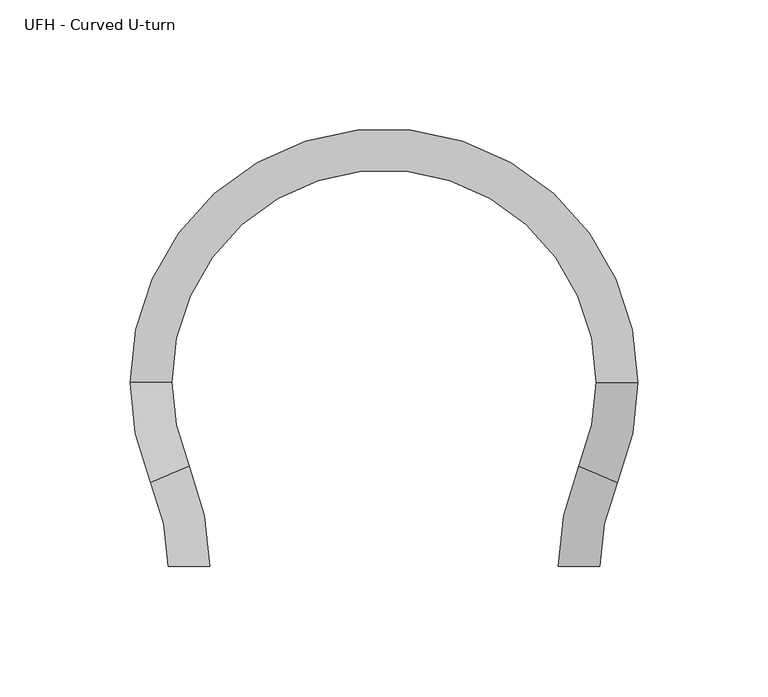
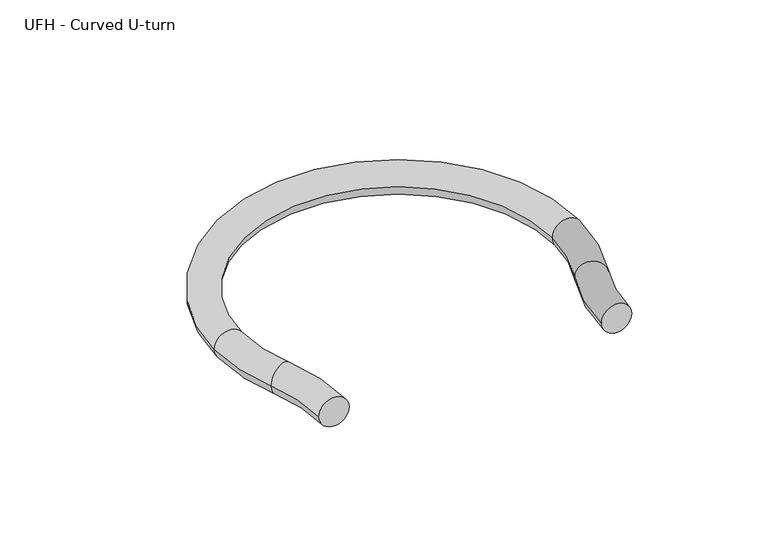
"""IFC4 building model written with IfcOpenShell, lengths in millimetres: pipe fitting geometry, UFH - Curved U-turn : Superpipe 2+ UFH Curved U-turn  - VA150."""

import ifcopenshell
import ifcopenshell.guid

model = None  # the IFC model being written
_history = None  # IfcOwnerHistory: only IFC2X3 demands one
_inside = {}  # id of a spatial element -> (the spatial element, [elements in it])
_under = {}  # id of a project, library or spatial element -> (it, [spatial elements below it])
_declared = {}  # id of a project -> (the project, [libraries it declares])
_typed = {}  # id of a type object -> (the type object, [elements of that type])
_made_of = {}  # id of a material, layer set ... -> (it, [elements and type objects made of it])


def new_model(schema):
    """Start an empty IFC model of exactly this schema.

    Asked for "IFC4X3", IfcOpenShell would pick the latest addendum, in which some entities
    have other attributes; the version numbers below select the first issue.
    IFC2X3 requires an IfcOwnerHistory on every rooted entity: one is made here for all.
    """
    global model, _history
    if schema == "IFC4X3":
        model = ifcopenshell.file(schema_version=(4, 3, 0, 0))
    else:
        model = ifcopenshell.file(schema=schema)
    _inside.clear()
    _under.clear()
    _declared.clear()
    _typed.clear()
    _made_of.clear()
    _history = None
    if model.schema == "IFC2X3":
        org = make("IfcOrganization", Name="unknown")
        user = make(
            "IfcPersonAndOrganization",
            ThePerson=make("IfcPerson", FamilyName="unknown"),
            TheOrganization=org,
        )
        app = make(
            "IfcApplication",
            ApplicationDeveloper=org,
            Version="unknown",
            ApplicationFullName="unknown",
            ApplicationIdentifier="unknown",
        )
        _history = make(
            "IfcOwnerHistory",
            OwningUser=user,
            OwningApplication=app,
            ChangeAction="ADDED",
            CreationDate=0,
        )
    return model


def make(cls, **values):
    """One entity of the class cls with the attributes given. An attribute that is None is left unset."""
    return model.create_entity(
        cls, **{name: value for name, value in values.items() if value is not None}
    )


def rooted(cls, **values):
    """An entity with a GlobalId (a new one), such as an element, a storey or a relation."""
    return make(cls, GlobalId=ifcopenshell.guid.new(), OwnerHistory=_history, **values)


def si_unit(unit_type, name, prefix=None):
    """IfcSIUnit, for example si_unit("LENGTHUNIT", "METRE", prefix="MILLI")."""
    return make("IfcSIUnit", UnitType=unit_type, Prefix=prefix, Name=name)


def assignment(units):
    """IfcUnitAssignment: the units of a project."""
    return None if units is None else make("IfcUnitAssignment", Units=units)


def point(xyz):
    """IfcCartesianPoint."""
    return None if xyz is None else make("IfcCartesianPoint", Coordinates=xyz)


def direction(xyz):
    """IfcDirection."""
    return None if xyz is None else make("IfcDirection", DirectionRatios=xyz)


def frame(location, z_axis=None, x_axis=None):
    """IfcAxis2Placement3D, a coordinate frame: its origin and axes. An axis left out is left unset."""
    return make(
        "IfcAxis2Placement3D",
        Location=point(location),
        Axis=direction(z_axis),
        RefDirection=direction(x_axis),
    )


def origin():
    """The frame at (0, 0, 0) with its axes left unset."""
    return frame((0.0, 0.0, 0.0))


def place(relative_to, where):
    """IfcLocalPlacement: puts the frame where relative to a parent placement (None: the world)."""
    return make(
        "IfcLocalPlacement", PlacementRelTo=relative_to, RelativePlacement=where
    )


def context(
    kind, dimensions, precision=None, world=None, true_north=None, identifier=None
):
    """IfcGeometricRepresentationContext, for example the 3D "Model" context."""
    return make(
        "IfcGeometricRepresentationContext",
        ContextIdentifier=identifier,
        ContextType=kind,
        CoordinateSpaceDimension=dimensions,
        Precision=precision,
        WorldCoordinateSystem=world,
        TrueNorth=true_north,
    )


def project(units=None, contexts=None):
    """IfcProject with its units and contexts."""
    return rooted(
        "IfcProject",
        Name="project",
        RepresentationContexts=contexts,
        UnitsInContext=assignment(units),
    )


def spatial(cls, under=None, at=None, **own):
    """A site, building, storey or space (cls), placed at a placement, below another one or the project."""
    s = rooted(cls, ObjectPlacement=at, **own)
    if under is not None:
        _under.setdefault(under.id(), (under, []))[1].append(s)
    return s


def circle_curve(where, radius):
    """IfcCircle in the frame where."""
    return make("IfcCircle", Position=where, Radius=radius)


def ellipse_curve(where, semi_axis1, semi_axis2):
    """IfcEllipse in the frame where."""
    return make(
        "IfcEllipse", Position=where, SemiAxis1=semi_axis1, SemiAxis2=semi_axis2
    )


def trimmed(basis, trim1, trim2, sense, master):
    """IfcTrimmedCurve: the piece of a basis curve between two trims."""
    return make(
        "IfcTrimmedCurve",
        BasisCurve=basis,
        Trim1=trim1,
        Trim2=trim2,
        SenseAgreement=sense,
        MasterRepresentation=master,
    )


def shape(context_of_items, identifier, shape_type, items):
    """IfcShapeRepresentation: the items that make up one representation, for example the "Body"."""
    return make(
        "IfcShapeRepresentation",
        ContextOfItems=context_of_items,
        RepresentationIdentifier=identifier,
        RepresentationType=shape_type,
        Items=items,
    )


def source(mapping_origin, context_of_items, identifier, shape_type, items):
    """IfcRepresentationMap: a shape defined once, which mapped items show again and again."""
    return make(
        "IfcRepresentationMap",
        MappingOrigin=mapping_origin,
        MappedRepresentation=shape(context_of_items, identifier, shape_type, items),
    )


def transform(
    local_origin,
    x_axis=None,
    y_axis=None,
    z_axis=None,
    scale=None,
    scale2=None,
    scale3=None,
    uniform=True,
):
    """IfcCartesianTransformationOperator3D, or its non-uniform kind. x_axis, y_axis, z_axis: its Axis1, 2, 3."""
    if uniform:
        return make(
            "IfcCartesianTransformationOperator3D",
            Axis1=direction(x_axis),
            Axis2=direction(y_axis),
            LocalOrigin=point(local_origin),
            Scale=scale,
            Axis3=direction(z_axis),
        )
    return make(
        "IfcCartesianTransformationOperator3DnonUniform",
        Axis1=direction(x_axis),
        Axis2=direction(y_axis),
        LocalOrigin=point(local_origin),
        Scale=scale,
        Axis3=direction(z_axis),
        Scale2=scale2,
        Scale3=scale3,
    )


def mapped(mapping_source, mapping_target):
    """IfcMappedItem: shows the shape of a source again, moved by a transform."""
    return make(
        "IfcMappedItem", MappingSource=mapping_source, MappingTarget=mapping_target
    )


def made_of(thing, what):
    """Note that an element or type object is made of a material, layer set ...; save() writes the relation."""
    if what is not None:
        _made_of.setdefault(what.id(), (what, []))[1].append(thing)
    return thing


def element(
    cls,
    number,
    at=None,
    inside=None,
    cuts=None,
    type_object=None,
    material=None,
    context=None,
    identifier="Body",
    shape_type=None,
    held_by="IfcProductDefinitionShape",
    body=None,
    shapes=None,
    **own,
):
    """One element of the class cls, such as IfcWall. Its Tag is "e" and its number.

    at: its placement. inside: the storey or other place that contains it. cuts: it is an
    opening in that element (IfcRelVoidsElement). A single representation is given by context,
    identifier, shape_type and body (its items); several are given by shapes. held_by: the class
    of the entity that holds the representations. save() writes the other relations.
    """
    e = rooted(cls, Tag="e%d" % number, ObjectPlacement=at, **own)
    if body is not None:
        shapes = [shape(context, identifier, shape_type, body)]
    if shapes is not None:
        e.Representation = make(held_by, Representations=shapes)
    if inside is not None:
        _inside.setdefault(inside.id(), (inside, []))[1].append(e)
    if cuts is not None:
        rooted(
            "IfcRelVoidsElement", RelatingBuildingElement=cuts, RelatedOpeningElement=e
        )
    if type_object is not None:
        _typed.setdefault(type_object.id(), (type_object, []))[1].append(e)
    return made_of(e, material)


def aggregate(whole, parts):
    """IfcRelAggregates: a whole, such as a stair, and the parts it consists of."""
    return rooted("IfcRelAggregates", RelatingObject=whole, RelatedObjects=parts)


def save(model, path):
    """Write the relations noted so far, then the file.

    IfcRelAggregates (storeys below a building ...), IfcRelContainedInSpatialStructure (elements
    in a storey), IfcRelDefinesByType, IfcRelAssociatesMaterial and IfcRelDeclares: one each for
    every whole, place, type object, material and project.
    """
    for whole, parts in _under.values():
        aggregate(whole, parts)
    for where, things in _inside.values():
        rooted(
            "IfcRelContainedInSpatialStructure",
            RelatedElements=things,
            RelatingStructure=where,
        )
    for kind, things in _typed.values():
        rooted("IfcRelDefinesByType", RelatedObjects=things, RelatingType=kind)
    for what, things in _made_of.values():
        rooted("IfcRelAssociatesMaterial", RelatedObjects=things, RelatingMaterial=what)
    for by, libraries in _declared.values():
        rooted("IfcRelDeclares", RelatingContext=by, RelatedDefinitions=libraries)
    model.write(path)


def plane_surface(at):
    """IfcPlane: the flat surface through the origin of the frame at, square to its z axis."""
    return make("IfcPlane", Position=at)


def revolved_surface(curve, axis_point, axis_direction):
    """IfcSurfaceOfRevolution: the curve turned about the line through axis_point along axis_direction."""
    return make(
        "IfcSurfaceOfRevolution",
        SweptCurve=make("IfcArbitraryOpenProfileDef", ProfileType="CURVE", Curve=curve),
        AxisPosition=make("IfcAxis1Placement", Location=point(axis_point), Axis=direction(axis_direction)),
    )


def advanced_brep(points, edges, surfaces, faces):
    """IfcAdvancedBrep: a solid bounded by faces that lie on surfaces and meet in shared edges.

    An edge is (start, end): straight between two places in points (the first is 0);
    or (start, end, curve); or (start, end, curve, False) where it runs against its curve.
    A face is (place in surfaces, loops), or (place, loops, False) where it looks against
    its surface's normal. A loop lists edges by number (the first is 1), with a minus sign
    where the edge is run from its end to its start. The first loop is the outer one.
    """
    corners = [point(p) for p in points]
    vertices = [make("IfcVertexPoint", VertexGeometry=c) for c in corners]
    made = []
    for start, end, *more in edges:
        made.append(
            make(
                "IfcEdgeCurve",
                EdgeStart=vertices[start],
                EdgeEnd=vertices[end],
                EdgeGeometry=more[0] if more else make("IfcPolyline", Points=[corners[start], corners[end]]),
                SameSense=more[1] if len(more) > 1 else True,
            )
        )
    hull = []
    for where, loops, *sense in faces:
        bounds = []
        for j, loop in enumerate(loops):
            ring = [make("IfcOrientedEdge", EdgeElement=made[abs(k) - 1], Orientation=k > 0) for k in loop]
            bounds.append(
                make(
                    "IfcFaceOuterBound" if j == 0 else "IfcFaceBound",
                    Bound=make("IfcEdgeLoop", EdgeList=ring),
                    Orientation=True,
                )
            )
        hull.append(make("IfcAdvancedFace", Bounds=bounds, FaceSurface=surfaces[where], SameSense=sense[0] if sense else True))
    return make("IfcAdvancedBrep", Outer=make("IfcClosedShell", CfsFaces=hull))


def ufh_curved_u_turn_a82c40bc(model_context):
    return source(origin(), model_context, "Body", "AdvancedBrep", [
        advanced_brep(
        [(8.0, 0.0, 0.0), (-8.0, 0.0, 0.0), (-14.6482143, 32.2612743, 0.0), (0.0482143, 38.5870143, 0.0), (-22.6, 70.8482886, 0.0), (-6.6, 70.8482886, 0.0), (172.6, 70.8482886, 0.0), (156.6, 70.8482886, 0.0), (164.6482143, 32.2612743, 0.0), (149.9517857, 38.5870143, 0.0), (142.0, 0.0, 0.0), (158.0, 0.0, 0.0)],
        [
            (0, 1, circle_curve(frame((0.0, 0.0, 0.0), z_axis=(0.0, -1.0, 0.0), x_axis=(-1.0, 0.0, 0.0)), 8.0)),
            (1, 0, circle_curve(frame((0.0, 0.0, 0.0), z_axis=(0.0, -1.0, 0.0), x_axis=(-1.0, 0.0, 0.0)), 8.0)),
            (2, 1, circle_curve(frame((-89.6, 0.0, 0.0), z_axis=(0.0, 0.0, -1.0), x_axis=(1.0, 0.0, 0.0)), 81.6)),
            (0, 3, circle_curve(frame((-89.6, 0.0, 0.0), z_axis=(0.0, 0.0, 1.0), x_axis=(1.0, 0.0, 0.0)), 97.6)),
            (3, 2, circle_curve(frame((-7.3, 35.4241443, 0.0), z_axis=(0.39535875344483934, -0.9185267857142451, 0.0), x_axis=(-0.9185267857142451, -0.39535875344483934, 0.0)), 8.0)),
            (2, 3, circle_curve(frame((-7.3, 35.4241443, 0.0), z_axis=(0.39535875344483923, -0.9185267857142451, 0.0), x_axis=(-0.9185267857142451, -0.39535875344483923, 0.0)), 8.0)),
            (4, 2, circle_curve(frame((75.0, 70.8482886, 0.0), z_axis=(0.0, 0.0, 1.0), x_axis=(-0.918526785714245, -0.39535875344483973, 0.0)), 97.6)),
            (3, 5, circle_curve(frame((75.0, 70.8482886, 0.0), z_axis=(0.0, 0.0, -1.0), x_axis=(-0.918526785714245, -0.39535875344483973, 0.0)), 81.6)),
            (5, 4, circle_curve(frame((-14.6, 70.8482886, 0.0), z_axis=(0.0, -1.0, 0.0), x_axis=(-1.0, 0.0, 0.0)), 8.0)),
            (4, 5, circle_curve(frame((-14.6, 70.8482886, 0.0), z_axis=(0.0, -1.0, 0.0), x_axis=(-1.0, 0.0, 0.0)), 8.0)),
            (6, 4, circle_curve(frame((75.0, 70.8482886, 0.0), z_axis=(0.0, 0.0, 1.0), x_axis=(-1.0, 0.0, 0.0)), 97.6)),
            (5, 7, circle_curve(frame((75.0, 70.8482886, 0.0), z_axis=(0.0, 0.0, -1.0), x_axis=(-1.0, 0.0, 0.0)), 81.6)),
            (7, 6, circle_curve(frame((164.6, 70.8482886, 0.0), z_axis=(0.0, 1.0, 0.0), x_axis=(1.0, 0.0, 0.0)), 8.0)),
            (6, 7, circle_curve(frame((164.6, 70.8482886, 0.0), z_axis=(0.0, 1.0, 0.0), x_axis=(1.0, 0.0, 0.0)), 8.0)),
            (8, 6, circle_curve(frame((75.0, 70.8482886, 0.0), z_axis=(0.0, 0.0, 1.0), x_axis=(1.0, 0.0, 0.0)), 97.6)),
            (7, 9, circle_curve(frame((75.0, 70.8482886, 0.0), z_axis=(0.0, 0.0, -1.0), x_axis=(1.0, 0.0, 0.0)), 81.6)),
            (9, 8, circle_curve(frame((157.3, 35.4241443, 0.0), z_axis=(0.3953587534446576, 0.9185267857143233, 0.0), x_axis=(0.9185267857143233, -0.3953587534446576, 0.0)), 8.0)),
            (8, 9, circle_curve(frame((157.3, 35.4241443, 0.0), z_axis=(0.39535875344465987, 0.9185267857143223, 0.0), x_axis=(0.9185267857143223, -0.39535875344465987, 0.0)), 8.0)),
            (10, 11, circle_curve(frame((150.0, 0.0, 0.0), z_axis=(0.0, -1.0, 0.0), x_axis=(1.0, 0.0, 0.0)), 8.0)),
            (11, 10, circle_curve(frame((150.0, 0.0, 0.0), z_axis=(0.0, -1.0, 0.0), x_axis=(1.0, 0.0, 0.0)), 8.0)),
            (11, 8, circle_curve(frame((239.6, 0.0, 0.0), z_axis=(0.0, 0.0, -1.0), x_axis=(-0.9185267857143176, 0.3953587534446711, 0.0)), 81.6)),
            (9, 10, circle_curve(frame((239.6, 0.0, 0.0), z_axis=(0.0, 0.0, 1.0), x_axis=(-0.9185267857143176, 0.3953587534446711, 0.0)), 97.6)),
        ],
        [
            plane_surface(frame((0.0, 0.0, 0.0), z_axis=(0.0, -1.0, 0.0), x_axis=(0.0, 0.0, 1.0))),
            revolved_surface(trimmed(ellipse_curve(frame((0.0, 0.0, 0.0), z_axis=(0.0, -1.0, 0.0), x_axis=(-1.0, 0.0, 0.0)), 8.0, 8.0), [point((8.0, 0.0, 0.0))], [point((-8.0, 0.0, 0.0))], True, "CARTESIAN"), (-89.6, 0.0, 0.0), (0.0, 0.0, 1.0)),
            revolved_surface(trimmed(ellipse_curve(frame((0.0, 0.0, 0.0), z_axis=(0.0, -1.0, 0.0), x_axis=(-1.0, 0.0, 0.0)), 8.0, 8.0), [point((-8.0, 0.0, 0.0))], [point((8.0, 0.0, 0.0))], True, "CARTESIAN"), (-89.6, 0.0, 0.0), (0.0, 0.0, 1.0)),
            revolved_surface(trimmed(ellipse_curve(frame((-7.3, 35.4241443, 0.0), z_axis=(0.3953587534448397, -0.918526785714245, 0.0), x_axis=(-0.918526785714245, -0.3953587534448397, 0.0)), 8.0, 8.0), [point((0.0482143, 38.5870143, 0.0))], [point((-14.6482143, 32.2612743, 0.0))], True, "CARTESIAN"), (75.0, 70.8482886, 0.0), (0.0, 0.0, -1.0)),
            revolved_surface(trimmed(ellipse_curve(frame((-7.3, 35.4241443, 0.0), z_axis=(0.3953587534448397, -0.918526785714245, 0.0), x_axis=(-0.918526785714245, -0.3953587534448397, 0.0)), 8.0, 8.0), [point((-14.6482143, 32.2612743, 0.0))], [point((0.0482143, 38.5870143, 0.0))], True, "CARTESIAN"), (75.0, 70.8482886, 0.0), (0.0, 0.0, -1.0)),
            revolved_surface(trimmed(ellipse_curve(frame((-14.6, 70.8482886, 0.0), z_axis=(0.0, -1.0, 0.0), x_axis=(-1.0, 0.0, 0.0)), 8.0, 8.0), [point((-6.6, 70.8482886, 0.0))], [point((-22.6, 70.8482886, 0.0))], True, "CARTESIAN"), (75.0, 70.8482886, 0.0), (0.0, 0.0, -1.0)),
            revolved_surface(trimmed(ellipse_curve(frame((-14.6, 70.8482886, 0.0), z_axis=(0.0, -1.0, 0.0), x_axis=(-1.0, 0.0, 0.0)), 8.0, 8.0), [point((-22.6, 70.8482886, 0.0))], [point((-6.6, 70.8482886, 0.0))], True, "CARTESIAN"), (75.0, 70.8482886, 0.0), (0.0, 0.0, -1.0)),
            revolved_surface(trimmed(ellipse_curve(frame((164.6, 70.8482886, 0.0), z_axis=(0.0, 1.0, 0.0), x_axis=(1.0, 0.0, 0.0)), 8.0, 8.0), [point((156.6, 70.8482886, 0.0))], [point((172.6, 70.8482886, 0.0))], True, "CARTESIAN"), (75.0, 70.8482886, 0.0), (0.0, 0.0, -1.0)),
            revolved_surface(trimmed(ellipse_curve(frame((164.6, 70.8482886, 0.0), z_axis=(0.0, 1.0, 0.0), x_axis=(1.0, 0.0, 0.0)), 8.0, 8.0), [point((172.6, 70.8482886, 0.0))], [point((156.6, 70.8482886, 0.0))], True, "CARTESIAN"), (75.0, 70.8482886, 0.0), (0.0, 0.0, -1.0)),
            plane_surface(frame((150.0, 0.0, 0.0), z_axis=(0.0, -1.0, 0.0), x_axis=(0.0, 0.0, 1.0))),
            revolved_surface(trimmed(ellipse_curve(frame((157.3, 35.4241443, 0.0), z_axis=(0.39535875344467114, 0.9185267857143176, 0.0), x_axis=(0.9185267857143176, -0.39535875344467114, 0.0)), 8.0, 8.0), [point((149.9517857, 38.5870143, 0.0))], [point((164.6482143, 32.2612743, 0.0))], True, "CARTESIAN"), (239.6, 0.0, 0.0), (0.0, 0.0, 1.0)),
            revolved_surface(trimmed(ellipse_curve(frame((157.3, 35.4241443, 0.0), z_axis=(0.39535875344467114, 0.9185267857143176, 0.0), x_axis=(0.9185267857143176, -0.39535875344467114, 0.0)), 8.0, 8.0), [point((164.6482143, 32.2612743, 0.0))], [point((149.9517857, 38.5870143, 0.0))], True, "CARTESIAN"), (239.6, 0.0, 0.0), (0.0, 0.0, 1.0)),
        ],
        [
            (0, [[1, 2]]),
            (1, [[3, -1, 4, 5]]),
            (2, [[-4, -2, -3, 6]]),
            (3, [[7, -5, 8, 9]]),
            (4, [[-8, -6, -7, 10]]),
            (5, [[11, -9, 12, 13]]),
            (6, [[-12, -10, -11, 14]]),
            (7, [[15, -13, 16, 17]]),
            (8, [[-16, -14, -15, 18]]),
            (9, [[19, 20]]),
            (10, [[21, -17, 22, -20]]),
            (11, [[-22, -18, -21, -19]]),
        ],
    ),
    ])


if __name__ == "__main__":
    model = new_model("IFC4")
    model_context = context("Model", 3, world=origin())
    ifc_project = project(units=[si_unit("LENGTHUNIT", "METRE", prefix="MILLI")], contexts=[model_context])
    site = spatial("IfcSite", under=ifc_project)
    building = spatial("IfcBuilding", under=site)
    placement = place(None, origin())
    ufh_curved_u_turn_shape = ufh_curved_u_turn_a82c40bc(model_context)
    element("IfcPipeFitting", 1, ObjectType="UFH - Curved U-turn : Superpipe 2+ UFH Curved U-turn  - VA150", at=placement, inside=building, context=model_context, shape_type="MappedRepresentation", body=[
        mapped(ufh_curved_u_turn_shape, transform((0.0, 0.0, 0.0), x_axis=(1.0, 0.0, 0.0), y_axis=(0.0, 1.0, 0.0), z_axis=(0.0, 0.0, 1.0))),
    ])
    save(model, "model.ifc")
